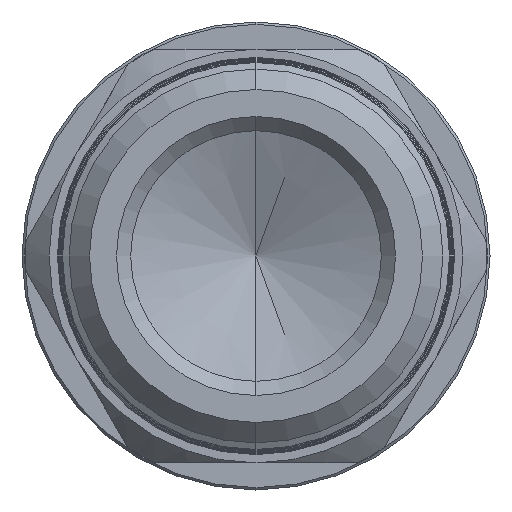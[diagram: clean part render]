
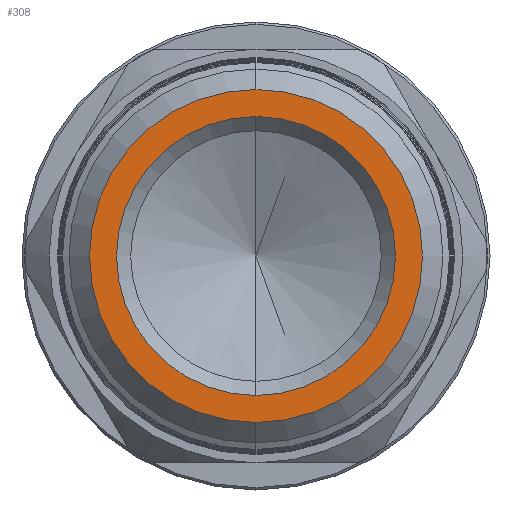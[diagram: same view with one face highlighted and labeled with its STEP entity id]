
A CAD part, left-side view. The second image highlights one B-rep face of the part: STEP entity #308.
In plain terms, the highlighted planar face has unit normal (-1, 0, 0).
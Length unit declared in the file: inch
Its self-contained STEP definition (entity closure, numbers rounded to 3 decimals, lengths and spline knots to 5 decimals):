
#226 = CARTESIAN_POINT ( 'NONE',  ( 0., 0., 0. ) ) ;
#227 = DIRECTION ( 'NONE',  ( -1., 0., 0. ) ) ;
#228 = DIRECTION ( 'NONE',  ( 0., 0., 1. ) ) ;
#308 = ADVANCED_FACE ( 'NONE', ( #2167, #2168 ), #2169, .F. ) ;
#366 = EDGE_CURVE ( 'NONE', #1572, #1538, #684, .T. ) ;
#446 = EDGE_LOOP ( 'NONE', ( #1408, #1403 ) ) ;
#647 = EDGE_CURVE ( 'NONE', #1608, #1628, #1300, .T. ) ;
#658 = EDGE_CURVE ( 'NONE', #1538, #1572, #1316, .T. ) ;
#684 = CIRCLE ( 'NONE', #685, 0.295 ) ;
#685 = AXIS2_PLACEMENT_3D ( 'NONE', #883, #884, #885 ) ;
#720 = AXIS2_PLACEMENT_3D ( 'NONE', #2165, #2171, #2172 ) ;
#883 = CARTESIAN_POINT ( 'NONE',  ( 0., 0., 0. ) ) ;
#884 = DIRECTION ( 'NONE',  ( 1., 0., 0. ) ) ;
#885 = DIRECTION ( 'NONE',  ( 0., 0., -1. ) ) ;
#1300 = CIRCLE ( 'NONE', #1302, 0.35226 ) ;
#1302 = AXIS2_PLACEMENT_3D ( 'NONE', #226, #227, #228 ) ;
#1316 = CIRCLE ( 'NONE', #1319, 0.295 ) ;
#1319 = AXIS2_PLACEMENT_3D ( 'NONE', #2229, #2230, #2231 ) ;
#1403 = ORIENTED_EDGE ( 'NONE', *, *, #658, .T. ) ;
#1408 = ORIENTED_EDGE ( 'NONE', *, *, #366, .T. ) ;
#1538 = VERTEX_POINT ( 'NONE', #2322 ) ;
#1562 = ORIENTED_EDGE ( 'NONE', *, *, #647, .T. ) ;
#1571 = ORIENTED_EDGE ( 'NONE', *, *, #2539, .T. ) ;
#1572 = VERTEX_POINT ( 'NONE', #2353 ) ;
#1608 = VERTEX_POINT ( 'NONE', #2372 ) ;
#1628 = VERTEX_POINT ( 'NONE', #2379 ) ;
#1675 = CIRCLE ( 'NONE', #1686, 0.35226 ) ;
#1686 = AXIS2_PLACEMENT_3D ( 'NONE', #2759, #2760, #2761 ) ;
#2165 = CARTESIAN_POINT ( 'NONE',  ( 0., 0., 0. ) ) ;
#2167 = FACE_BOUND ( 'NONE', #446, .T. ) ;
#2168 = FACE_OUTER_BOUND ( 'NONE', #2956, .T. ) ;
#2169 = PLANE ( 'NONE',  #720 ) ;
#2171 = DIRECTION ( 'NONE',  ( 1., 0., 0. ) ) ;
#2172 = DIRECTION ( 'NONE',  ( 0., 0., -1. ) ) ;
#2229 = CARTESIAN_POINT ( 'NONE',  ( 0., 0., 0. ) ) ;
#2230 = DIRECTION ( 'NONE',  ( 1., 0., 0. ) ) ;
#2231 = DIRECTION ( 'NONE',  ( 0., 0., -1. ) ) ;
#2322 = CARTESIAN_POINT ( 'NONE',  ( 0., 0., -0.295 ) ) ;
#2353 = CARTESIAN_POINT ( 'NONE',  ( 0., 0., 0.295 ) ) ;
#2372 = CARTESIAN_POINT ( 'NONE',  ( 0., 0., -0.35226 ) ) ;
#2379 = CARTESIAN_POINT ( 'NONE',  ( 0., 0., 0.35226 ) ) ;
#2539 = EDGE_CURVE ( 'NONE', #1628, #1608, #1675, .T. ) ;
#2759 = CARTESIAN_POINT ( 'NONE',  ( 0., 0., 0. ) ) ;
#2760 = DIRECTION ( 'NONE',  ( -1., 0., 0. ) ) ;
#2761 = DIRECTION ( 'NONE',  ( 0., 0., 1. ) ) ;
#2956 = EDGE_LOOP ( 'NONE', ( #1562, #1571 ) ) ;
